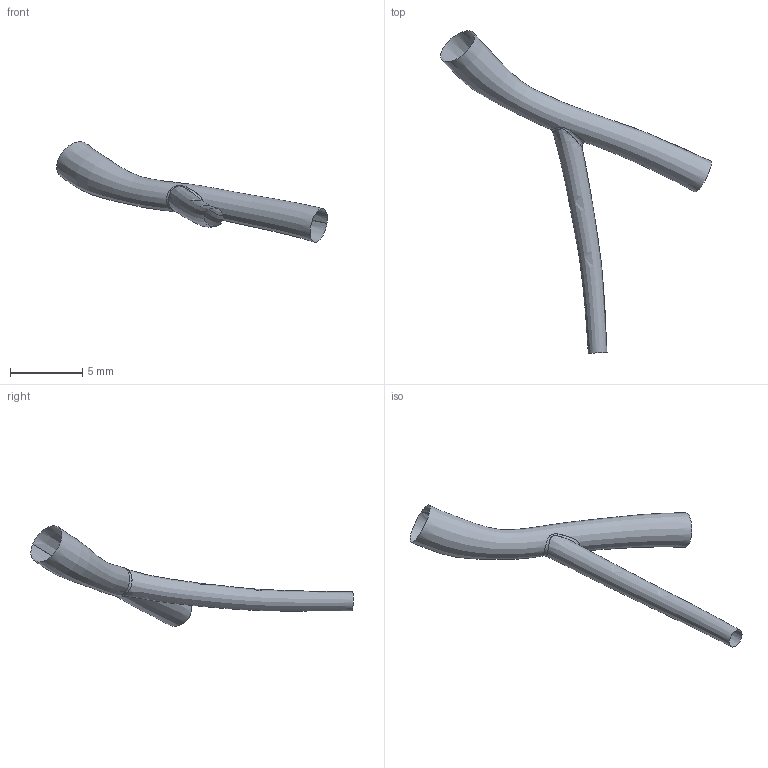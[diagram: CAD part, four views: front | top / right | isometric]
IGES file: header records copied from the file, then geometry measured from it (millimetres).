
Global section: file name: C:\Documents and Settings\Administrator\Desktop\FDA-Pig\Domestic LCA\Pig_000137\diag.ed.igs; native system: Rhinoceros ( May 19 2006 ); preprocessor: Trout Lake IGES 012 May 19 2006; date: 111205.184114; units: centimetre
Bounding box: 18.7 x 22.27 x 6.94 mm (x, y, z)
Surface area: 214.8 mm2 (no closed solid volume)
Topology: 0 solids, 0 shells, 3 faces, 54 edges, 51 vertices
Faces by surface type: bspline 3
